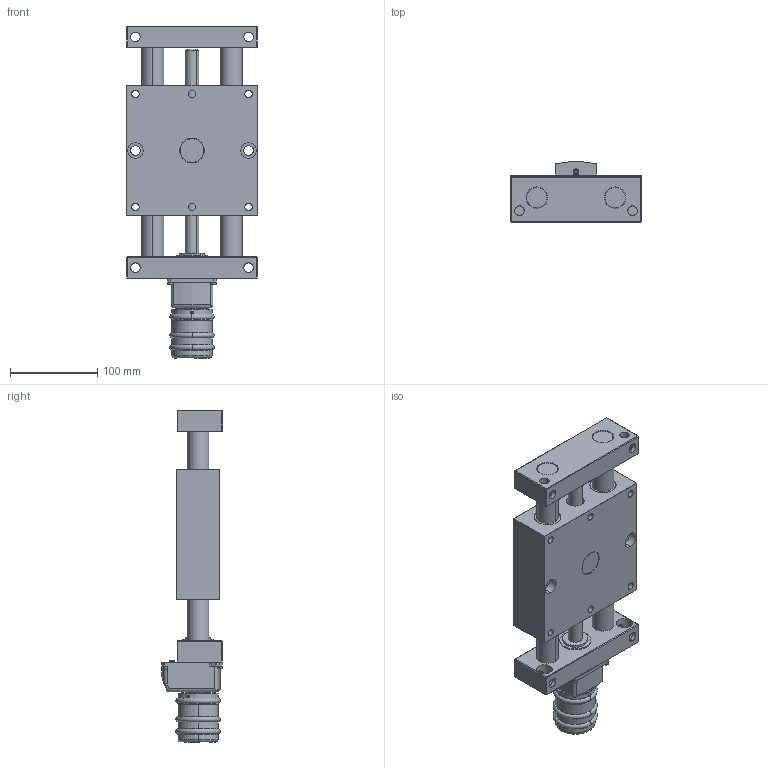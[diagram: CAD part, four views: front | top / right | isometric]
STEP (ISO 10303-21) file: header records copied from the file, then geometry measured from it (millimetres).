
FILE_DESCRIPTION (( 'STEP AP203' ), '1' );
FILE_NAME ('PT8625-PA-Positioniertisch.STEP', '2016-01-15T17:23:32', ( '' ), ( '' ), 'SwSTEP 2.0', 'SolidWorks 2014', '' );
FILE_SCHEMA (( 'CONFIG_CONTROL_DESIGN' ));
Length unit declared in the file: millimetre
Products named in the file (4): PT8625-000-01-Festteil-PA(E)_n_Standard; PT25-000-02-Schlitten-komplett_n_Standard; PA25-PTHT-000-Positionsanzeiger-komplett_n_Standard; PT8625-PA-Positioniertisch
Assembly tree (3 placements, depth 2):
  PT8625-PA-Positioniertisch
    PT8625-000-01-Festteil-PA(E)_n_Standard
    PT25-000-02-Schlitten-komplett_n_Standard
    PA25-PTHT-000-Positionsanzeiger-komplett_n_Standard
Bounding box: 150 x 70.01 x 381.26 mm (x, y, z)
Volume: 1725720.4 mm3; surface area: 279484.7 mm2
Topology: 3 solids, 11 shells, 814 faces, 1904 edges, 1176 vertices
Faces by surface type: cylinder 322, plane 290, cone 103, torus 79, sphere 14, bspline 6
Entity records: 25850 total; most frequent: CARTESIAN_POINT 6212, DIRECTION 4349, ORIENTED_EDGE 3768, EDGE_CURVE 1884, AXIS2_PLACEMENT_3D 1738, VERTEX_POINT 1176, EDGE_LOOP 964, CIRCLE 924
